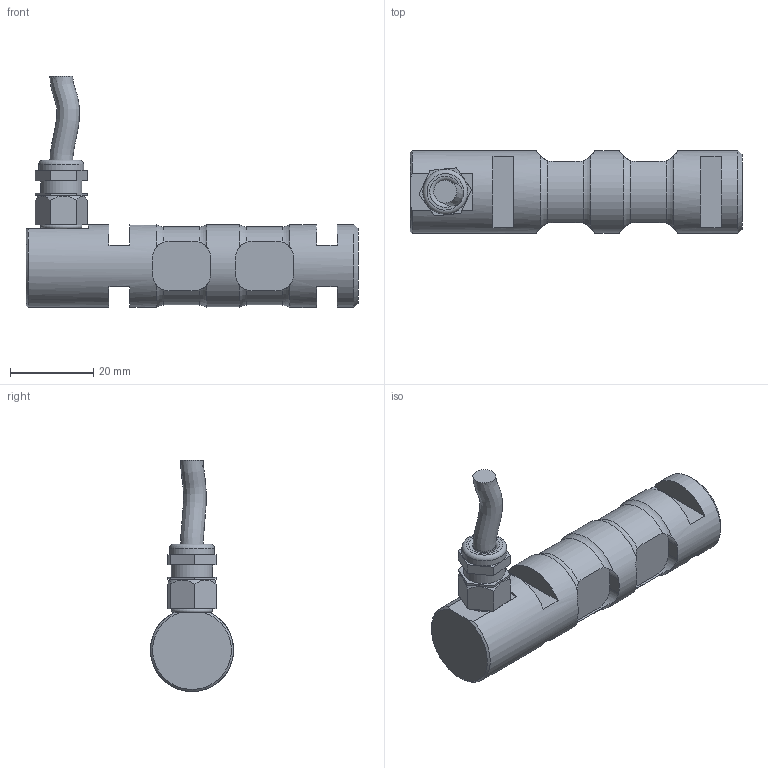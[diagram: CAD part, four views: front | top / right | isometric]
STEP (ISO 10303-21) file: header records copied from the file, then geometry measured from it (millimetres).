
FILE_DESCRIPTION(/* description */ ('Alibre Inc.'),/* implementation_level */ '2;1');
FILE_NAME(/* name */ 'export0',/* time_stamp */ '2011-09-09T09:32:32+02:00',/* author */ (''),/* organization */ (''),/* preprocessor_version */ 'ST-DEVELOPER v10',/* originating_system */ 'Alibre',/* authorisation */ '');
FILE_SCHEMA (('CONFIG_CONTROL_DESIGN'));
Length unit declared in the file: centimetre
Products named in the file (6): ID_1
Bounding box: 80 x 20 x 55.67 mm (x, y, z)
Volume: 23392 mm3; surface area: 8176.4 mm2
Topology: 4 solids, 4 shells, 110 faces, 275 edges, 180 vertices
Faces by surface type: plane 64, cylinder 29, torus 11, cone 5, bspline 1
Full cylindrical faces by diameter (mm): 5.5 x2, 6.917 x1, 8 x1, 10 x1, 10.8 x1, 20 x3
Entity records: 5627 total; most frequent: CARTESIAN_POINT 2689, ORIENTED_EDGE 504, DIRECTION 399, EDGE_CURVE 252, VERTEX_POINT 175, AXIS2_PLACEMENT_3D 172, FACE_BOUND 137, EDGE_LOOP 136
